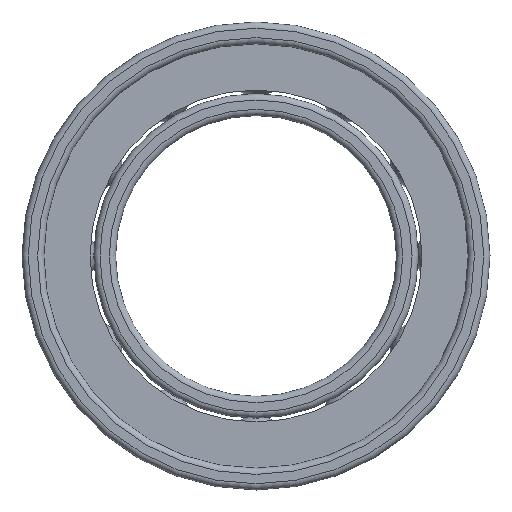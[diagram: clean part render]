
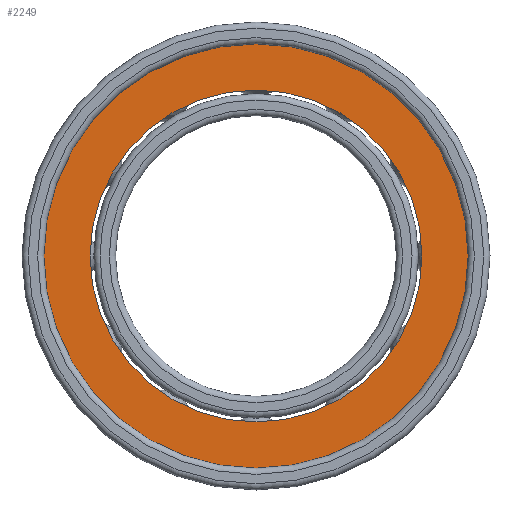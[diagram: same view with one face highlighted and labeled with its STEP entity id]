
A CAD part, left-side view. The second image highlights one B-rep face of the part: STEP entity #2249.
In plain terms, the highlighted planar face has unit normal (-1, 0, 0).
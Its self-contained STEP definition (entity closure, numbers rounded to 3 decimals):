
#2088 = VERTEX_POINT('',#2089);
#2089 = CARTESIAN_POINT('',(0.8,34.,0.));
#2098 = CYLINDRICAL_SURFACE('',#2099,34.);
#2099 = AXIS2_PLACEMENT_3D('',#2100,#2101,#2102);
#2100 = CARTESIAN_POINT('',(0.8,0.,0.));
#2101 = DIRECTION('',(-1.,-0.,-0.));
#2102 = DIRECTION('',(0.,1.,0.));
#2145 = EDGE_CURVE('',#2088,#2088,#2146,.T.);
#2146 = SURFACE_CURVE('',#2147,(#2152,#2159),.PCURVE_S1.);
#2147 = CIRCLE('',#2148,34.);
#2148 = AXIS2_PLACEMENT_3D('',#2149,#2150,#2151);
#2149 = CARTESIAN_POINT('',(0.8,0.,0.));
#2150 = DIRECTION('',(1.,0.,0.));
#2151 = DIRECTION('',(0.,1.,0.));
#2152 = PCURVE('',#2098,#2153);
#2153 = DEFINITIONAL_REPRESENTATION('',(#2154),#2158);
#2154 = LINE('',#2155,#2156);
#2155 = CARTESIAN_POINT('',(-0.,0.));
#2156 = VECTOR('',#2157,1.);
#2157 = DIRECTION('',(-1.,0.));
#2158 = ( GEOMETRIC_REPRESENTATION_CONTEXT(2) 
PARAMETRIC_REPRESENTATION_CONTEXT() REPRESENTATION_CONTEXT('2D SPACE',''
  ) );
#2159 = PCURVE('',#2160,#2165);
#2160 = PLANE('',#2161);
#2161 = AXIS2_PLACEMENT_3D('',#2162,#2163,#2164);
#2162 = CARTESIAN_POINT('',(0.8,0.,0.)
  );
#2163 = DIRECTION('',(1.,0.,0.));
#2164 = DIRECTION('',(-0.,0.,1.));
#2165 = DEFINITIONAL_REPRESENTATION('',(#2166),#2170);
#2166 = CIRCLE('',#2167,34.);
#2167 = AXIS2_PLACEMENT_2D('',#2168,#2169);
#2168 = CARTESIAN_POINT('',(0.,0.));
#2169 = DIRECTION('',(0.,-1.));
#2170 = ( GEOMETRIC_REPRESENTATION_CONTEXT(2) 
PARAMETRIC_REPRESENTATION_CONTEXT() REPRESENTATION_CONTEXT('2D SPACE',''
  ) );
#2176 = VERTEX_POINT('',#2177);
#2177 = CARTESIAN_POINT('',(0.8,26.6,0.));
#2186 = CYLINDRICAL_SURFACE('',#2187,26.6);
#2187 = AXIS2_PLACEMENT_3D('',#2188,#2189,#2190);
#2188 = CARTESIAN_POINT('',(0.8,0.,0.));
#2189 = DIRECTION('',(-1.,-0.,-0.));
#2190 = DIRECTION('',(0.,1.,0.));
#2228 = EDGE_CURVE('',#2176,#2176,#2229,.T.);
#2229 = SURFACE_CURVE('',#2230,(#2235,#2242),.PCURVE_S1.);
#2230 = CIRCLE('',#2231,26.6);
#2231 = AXIS2_PLACEMENT_3D('',#2232,#2233,#2234);
#2232 = CARTESIAN_POINT('',(0.8,0.,0.));
#2233 = DIRECTION('',(1.,0.,0.));
#2234 = DIRECTION('',(0.,1.,0.));
#2235 = PCURVE('',#2186,#2236);
#2236 = DEFINITIONAL_REPRESENTATION('',(#2237),#2241);
#2237 = LINE('',#2238,#2239);
#2238 = CARTESIAN_POINT('',(-0.,0.));
#2239 = VECTOR('',#2240,1.);
#2240 = DIRECTION('',(-1.,0.));
#2241 = ( GEOMETRIC_REPRESENTATION_CONTEXT(2) 
PARAMETRIC_REPRESENTATION_CONTEXT() REPRESENTATION_CONTEXT('2D SPACE',''
  ) );
#2242 = PCURVE('',#2160,#2243);
#2243 = DEFINITIONAL_REPRESENTATION('',(#2244),#2248);
#2244 = CIRCLE('',#2245,26.6);
#2245 = AXIS2_PLACEMENT_2D('',#2246,#2247);
#2246 = CARTESIAN_POINT('',(0.,0.));
#2247 = DIRECTION('',(0.,-1.));
#2248 = ( GEOMETRIC_REPRESENTATION_CONTEXT(2) 
PARAMETRIC_REPRESENTATION_CONTEXT() REPRESENTATION_CONTEXT('2D SPACE',''
  ) );
#2249 = ADVANCED_FACE('',(#2250,#2253),#2160,.F.);
#2250 = FACE_BOUND('',#2251,.F.);
#2251 = EDGE_LOOP('',(#2252));
#2252 = ORIENTED_EDGE('',*,*,#2145,.T.);
#2253 = FACE_BOUND('',#2254,.F.);
#2254 = EDGE_LOOP('',(#2255));
#2255 = ORIENTED_EDGE('',*,*,#2228,.F.);
